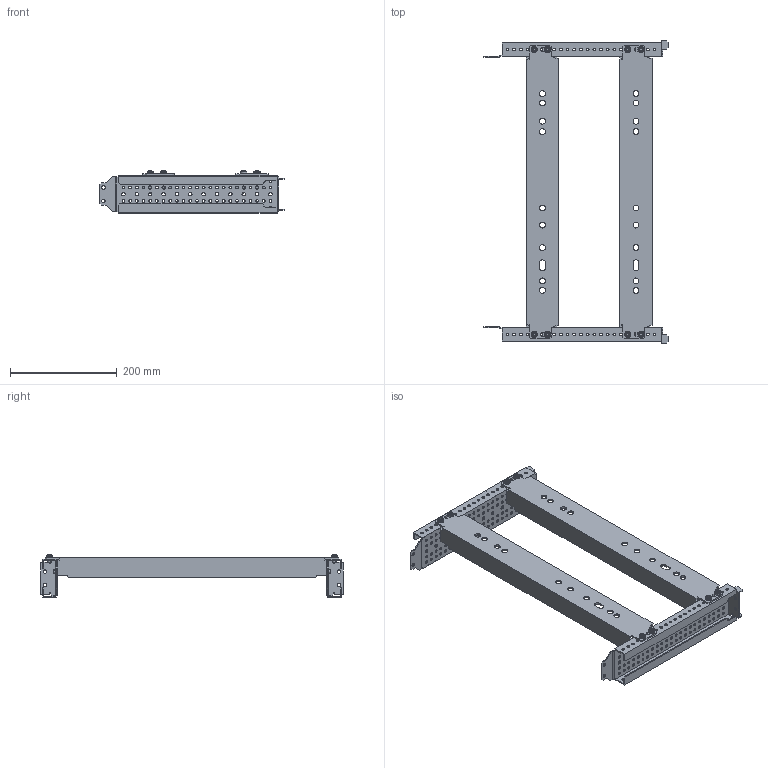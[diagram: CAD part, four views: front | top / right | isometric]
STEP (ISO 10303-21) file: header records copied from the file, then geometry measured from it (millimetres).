
FILE_DESCRIPTION (( 'STEP AP214' ), '1' );
FILE_NAME ('FO-00-ABD-060-060 暑祜脲牝 篑蜞眍忸黜 ARMAT ACB 蜩镱疣珈屦 AIB 3I4P D 3P 600 600.STEP', '2025-07-15T11:25:38', ( '' ), ( '' ), 'SwSTEP 2.0', 'SolidWorks 2023', '' );
FILE_SCHEMA (( 'AUTOMOTIVE_DESIGN' ));
Length unit declared in the file: millimetre
Products named in the file (4): FO-00-ABD-060-060 Комплект установочный ARMAT ACB типоразмер AIB 3I4P D 3P 600 600; Траверса поперечная для CW6-16_20_25 в шкаф 600мм; Screw_DIN_7500_M6x10_Torx_T30; Траверса возд. выключателя по глубине
Assembly tree (20 placements, depth 2):
  FO-00-ABD-060-060 Комплект установочный ARMAT ACB типоразмер AIB 3I4P D 3P 600 600
    Траверса поперечная для CW6-16_20_25 в шкаф 600мм  x2
    Траверса возд. выключателя по глубине  x2
    Screw_DIN_7500_M6x10_Torx_T30  x16
Bounding box: 344.49 x 566 x 79.3 mm (x, y, z)
Volume: 576609.4 mm3; surface area: 472749.4 mm2
Topology: 20 solids, 20 shells, 1508 faces, 4180 edges, 2744 vertices
Faces by surface type: cylinder 1008, plane 362, cone 64, torus 64, bspline 10
Entity records: 19648 total; most frequent: CARTESIAN_POINT 3714, DIRECTION 3424, ORIENTED_EDGE 3158, EDGE_CURVE 1579, AXIS2_PLACEMENT_3D 1309, VERTEX_POINT 1050, EDGE_LOOP 887, VECTOR 806
